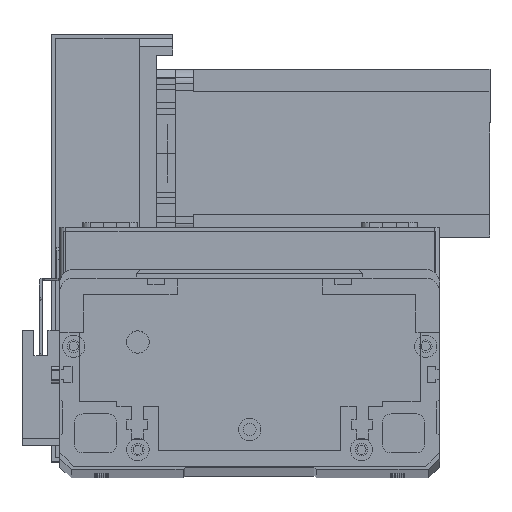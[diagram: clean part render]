
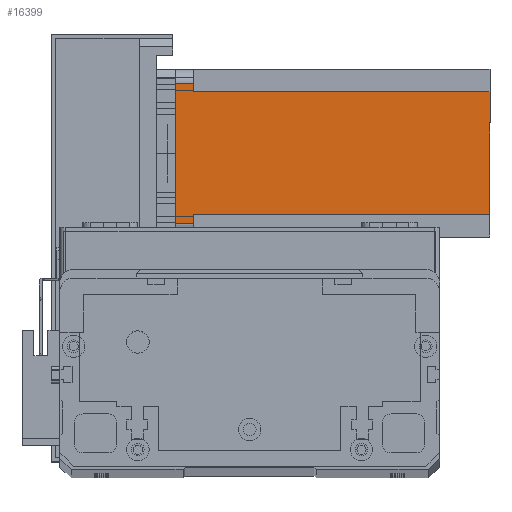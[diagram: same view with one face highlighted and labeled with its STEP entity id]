
A CAD part, top view. The second image highlights one B-rep face of the part: STEP entity #16399.
In plain terms, the highlighted planar face has unit normal (0, 0, 1) as drawn and (0, -1, 0) by its records, which use the part's own axes.
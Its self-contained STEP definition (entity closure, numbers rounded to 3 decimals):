
#996 = LINE ( 'NONE', #3073, #24829 ) ;
#1248 = DIRECTION ( 'NONE',  ( 0., 0., 1. ) ) ;
#1252 = VERTEX_POINT ( 'NONE', #10430 ) ;
#1321 = DIRECTION ( 'NONE',  ( 0., 0., -1. ) ) ;
#1556 = LINE ( 'NONE', #22115, #6227 ) ;
#2046 = ORIENTED_EDGE ( 'NONE', *, *, #27982, .T. ) ;
#2095 = CARTESIAN_POINT ( 'NONE',  ( 8., 0., -6.5 ) ) ;
#2547 = EDGE_CURVE ( 'NONE', #20470, #10753, #26540, .T. ) ;
#2566 = ORIENTED_EDGE ( 'NONE', *, *, #17721, .F. ) ;
#3073 = CARTESIAN_POINT ( 'NONE',  ( 52., 0., -6.5 ) ) ;
#3222 = VERTEX_POINT ( 'NONE', #15448 ) ;
#3577 = CARTESIAN_POINT ( 'NONE',  ( 55., 0., -112.5 ) ) ;
#3975 = VECTOR ( 'NONE', #14221, 1000. ) ;
#4401 = CARTESIAN_POINT ( 'NONE',  ( 0., 0., -112.5 ) ) ;
#5302 = CARTESIAN_POINT ( 'NONE',  ( 5., 0., -6.5 ) ) ;
#5522 = VECTOR ( 'NONE', #13639, 1000. ) ;
#6227 = VECTOR ( 'NONE', #1321, 1000. ) ;
#6728 = CARTESIAN_POINT ( 'NONE',  ( 52., 0., -112.5 ) ) ;
#6769 = DIRECTION ( 'NONE',  ( 1., 0., 0. ) ) ;
#9649 = EDGE_CURVE ( 'NONE', #3222, #1252, #20227, .T. ) ;
#9689 = VECTOR ( 'NONE', #13733, 1000. ) ;
#10430 = CARTESIAN_POINT ( 'NONE',  ( 55., 0., 0. ) ) ;
#10608 = EDGE_LOOP ( 'NONE', ( #25519, #25534, #2566, #29674, #11762, #23836, #2046, #25179 ) ) ;
#10753 = VERTEX_POINT ( 'NONE', #5302 ) ;
#11438 = VERTEX_POINT ( 'NONE', #14963 ) ;
#11711 = EDGE_CURVE ( 'NONE', #21582, #22175, #29321, .T. ) ;
#11762 = ORIENTED_EDGE ( 'NONE', *, *, #2547, .F. ) ;
#12663 = VECTOR ( 'NONE', #1248, 1000. ) ;
#12736 = LINE ( 'NONE', #4401, #14186 ) ;
#12928 = DIRECTION ( 'NONE',  ( 0., -1., 0. ) ) ;
#13056 = DIRECTION ( 'NONE',  ( 0., 0., 1. ) ) ;
#13317 = EDGE_CURVE ( 'NONE', #11438, #20470, #21114, .T. ) ;
#13592 = CARTESIAN_POINT ( 'NONE',  ( 8., 0., -6.5 ) ) ;
#13639 = DIRECTION ( 'NONE',  ( 0., 0., -1. ) ) ;
#13733 = DIRECTION ( 'NONE',  ( -1., 0., 0. ) ) ;
#14186 = VECTOR ( 'NONE', #6769, 1000. ) ;
#14221 = DIRECTION ( 'NONE',  ( 1., 0., 0. ) ) ;
#14295 = VECTOR ( 'NONE', #13056, 1000. ) ;
#14963 = CARTESIAN_POINT ( 'NONE',  ( 8., 0., -112.5 ) ) ;
#15302 = CARTESIAN_POINT ( 'NONE',  ( 52., 0., -112.5 ) ) ;
#15448 = CARTESIAN_POINT ( 'NONE',  ( 55., 0., -6.5 ) ) ;
#16300 = EDGE_CURVE ( 'NONE', #21582, #3222, #996, .T. ) ;
#16399 = ADVANCED_FACE ( 'NONE', ( #22735 ), #22056, .T. ) ;
#17721 = EDGE_CURVE ( 'NONE', #24242, #1252, #22494, .T. ) ;
#17866 = CARTESIAN_POINT ( 'NONE',  ( 52., 0., -6.5 ) ) ;
#17924 = CARTESIAN_POINT ( 'NONE',  ( 5., 0., 0. ) ) ;
#19396 = DIRECTION ( 'NONE',  ( 1., 0., 0. ) ) ;
#20227 = LINE ( 'NONE', #3577, #12663 ) ;
#20470 = VERTEX_POINT ( 'NONE', #13592 ) ;
#21114 = LINE ( 'NONE', #22173, #14295 ) ;
#21582 = VERTEX_POINT ( 'NONE', #17866 ) ;
#22056 = PLANE ( 'NONE',  #23186 ) ;
#22115 = CARTESIAN_POINT ( 'NONE',  ( 5., 0., -112.5 ) ) ;
#22173 = CARTESIAN_POINT ( 'NONE',  ( 8., 0., -112.5 ) ) ;
#22175 = VERTEX_POINT ( 'NONE', #15302 ) ;
#22185 = EDGE_CURVE ( 'NONE', #24242, #10753, #1556, .T. ) ;
#22494 = LINE ( 'NONE', #27856, #3975 ) ;
#22735 = FACE_OUTER_BOUND ( 'NONE', #10608, .T. ) ;
#23186 = AXIS2_PLACEMENT_3D ( 'NONE', #26598, #12928, #28866 ) ;
#23836 = ORIENTED_EDGE ( 'NONE', *, *, #13317, .F. ) ;
#24242 = VERTEX_POINT ( 'NONE', #17924 ) ;
#24829 = VECTOR ( 'NONE', #19396, 1000. ) ;
#25179 = ORIENTED_EDGE ( 'NONE', *, *, #11711, .F. ) ;
#25519 = ORIENTED_EDGE ( 'NONE', *, *, #16300, .T. ) ;
#25534 = ORIENTED_EDGE ( 'NONE', *, *, #9649, .T. ) ;
#26540 = LINE ( 'NONE', #2095, #9689 ) ;
#26598 = CARTESIAN_POINT ( 'NONE',  ( 0., 0., -112.5 ) ) ;
#27856 = CARTESIAN_POINT ( 'NONE',  ( 0., 0., 0. ) ) ;
#27982 = EDGE_CURVE ( 'NONE', #11438, #22175, #12736, .T. ) ;
#28866 = DIRECTION ( 'NONE',  ( 0., 0., -1. ) ) ;
#29321 = LINE ( 'NONE', #6728, #5522 ) ;
#29674 = ORIENTED_EDGE ( 'NONE', *, *, #22185, .T. ) ;
